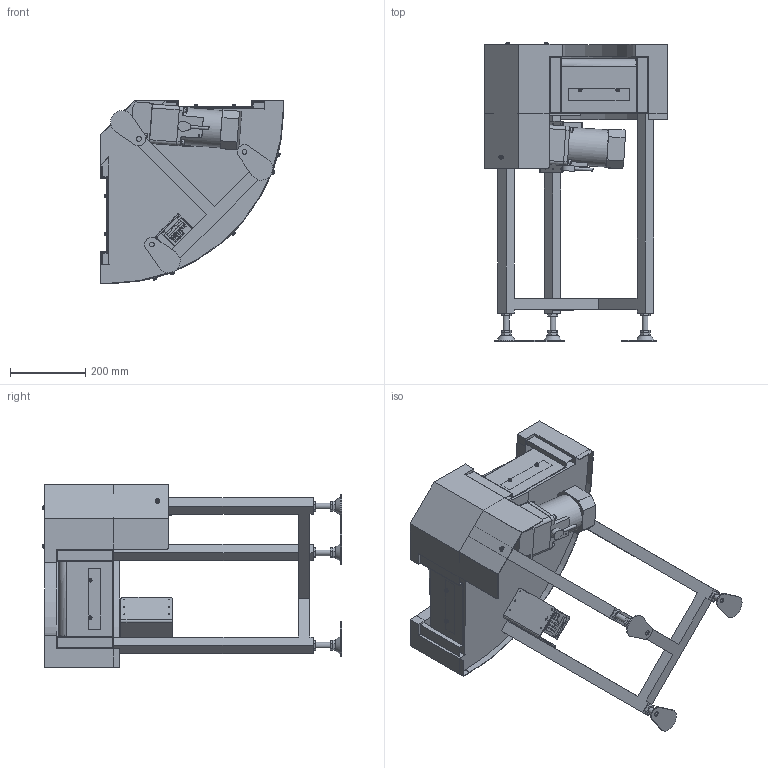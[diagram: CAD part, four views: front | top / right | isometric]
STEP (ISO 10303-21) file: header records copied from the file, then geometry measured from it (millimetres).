
FILE_DESCRIPTION( (''), '2;1');
FILE_NAME ('WEB-MBC2H-UD-320-200-90°-R-IVH-5-O-H.stp','2026-06-19T10:41:35',(''),(''),'spGate 21.9.5 (****-****-****-****)','','');
FILE_SCHEMA (('AUTOMOTIVE_DESIGN'));
Length unit declared in the file: millimetre
Products named in the file (38): WEB-MBC2H-UD-320-200-90_-R-IVH-5-O-H; TEMP_X_T-prt0; TEMP_X_T-prt1; TEMP_X_T-prt2; TEMP_X_T-prt3; TEMP_X_T-prt4; TEMP_X_T-prt5; TEMP_X_T-prt6; TEMP_X_T-prt7; TEMP_X_T-prt8; TEMP_X_T-prt9; TEMP_X_T-prt10; TEMP_X_T-prt11; TEMP_X_T-prt12; TEMP_X_T-prt13; TEMP_X_T-prt14; TEMP_X_T-prt15; TEMP_X_T-prt16; TEMP_X_T-prt17; TEMP_X_T-prt18; TEMP_X_T-prt19; TEMP_X_T-prt20; TEMP_X_T-prt21; TEMP_X_T-prt22; TEMP_X_T-prt23; TEMP_X_T-prt24; TEMP_X_T-prt25; TEMP_X_T-prt26; TEMP_X_T-prt27; TEMP_X_T-prt28; TEMP_X_T-prt29; TEMP_X_T-prt30; TEMP_X_T-prt31; TEMP_X_T-prt32; TEMP_X_T-prt33; TEMP_X_T-prt34; TEMP_X_T-prt35; TEMP_X_T-prt36
Assembly tree (37 placements, depth 2):
  WEB-MBC2H-UD-320-200-90_-R-IVH-5-O-H
    TEMP_X_T-prt0
    TEMP_X_T-prt1
    TEMP_X_T-prt2
    TEMP_X_T-prt3
    TEMP_X_T-prt4
    TEMP_X_T-prt5
    TEMP_X_T-prt6
    TEMP_X_T-prt7
    TEMP_X_T-prt8
    TEMP_X_T-prt9
    TEMP_X_T-prt10
    TEMP_X_T-prt11
    TEMP_X_T-prt12
    TEMP_X_T-prt13
    TEMP_X_T-prt14
    TEMP_X_T-prt15
    TEMP_X_T-prt16
    TEMP_X_T-prt17
    TEMP_X_T-prt18
    TEMP_X_T-prt19
    TEMP_X_T-prt20
    TEMP_X_T-prt21
    TEMP_X_T-prt22
    TEMP_X_T-prt23
    TEMP_X_T-prt24
    TEMP_X_T-prt25
    TEMP_X_T-prt26
    TEMP_X_T-prt27
    TEMP_X_T-prt28
    TEMP_X_T-prt29
    TEMP_X_T-prt30
    TEMP_X_T-prt31
    TEMP_X_T-prt32
    TEMP_X_T-prt33
    TEMP_X_T-prt34
    TEMP_X_T-prt35
    TEMP_X_T-prt36
Bounding box: 488.1 x 794.6 x 488.1 mm (x, y, z)
Volume: 23575830.9 mm3; surface area: 2096164.3 mm2
Topology: 35 solids, 46 shells, 1521 faces, 3954 edges, 2678 vertices
Faces by surface type: plane 1128, cylinder 253, bspline 138, sphere 2
Full cylindrical faces by diameter (mm): 3.3 x6, 3.5 x12, 3.8 x2, 4 x11, 5 x5, 5.8 x10, 6 x4, 6.4 x7, 6.5 x2, 6.6 x2, 7 x5, 7.5 x1, 7.8 x1, 8 x6, 8.5 x8, 9 x14, 9.2 x12, 10 x16, 12.04 x1, 12.5 x7, 13 x7, 16 x9, 18 x1, 20 x1, 23 x1, 42 x1, 43 x1, 94 x1, 99 x1
Entity records: 84425 total; most frequent: CARTESIAN_POINT 14617, ORIENTED_EDGE 7904, DIRECTION 7375, COLOUR_RGB 5513, PRESENTATION_STYLE_ASSIGNMENT 5513, STYLED_ITEM 5513, EDGE_CURVE 3954, DRAUGHTING_PRE_DEFINED_CURVE_FONT 3954
